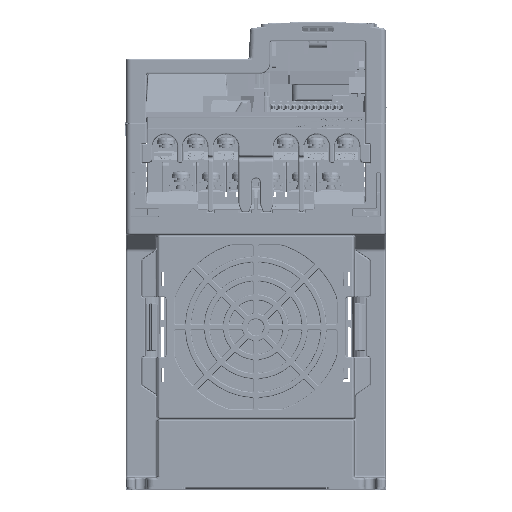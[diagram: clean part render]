
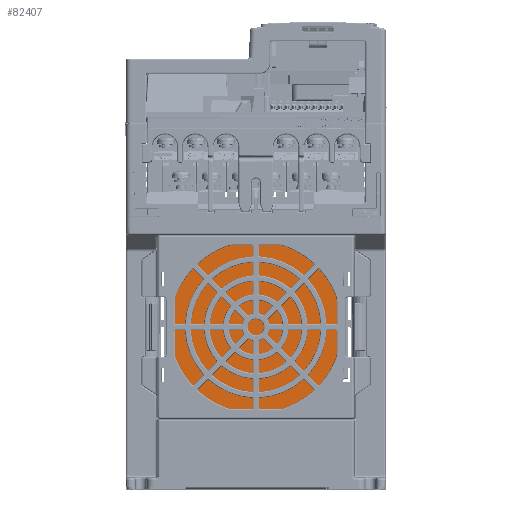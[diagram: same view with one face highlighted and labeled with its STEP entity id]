
A CAD part, top view. The second image highlights one B-rep face of the part: STEP entity #82407.
In plain terms, the highlighted planar face has unit normal (0, 0, 1).
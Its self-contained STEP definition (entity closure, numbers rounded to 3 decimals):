
#70794=DIRECTION('',(0.,1.,0.));
#70795=VECTOR('',#70794,13.387);
#70796=CARTESIAN_POINT('',(109.2,40.407,-11.9));
#70797=LINE('',#70796,#70795);
#70917=DIRECTION('',(0.,-1.,0.));
#70918=VECTOR('',#70917,13.387);
#70919=CARTESIAN_POINT('',(20.8,53.793,-11.9));
#70920=LINE('',#70919,#70918);
#70973=DIRECTION('',(-1.,0.,0.));
#70974=VECTOR('',#70973,13.387);
#70975=CARTESIAN_POINT('',(71.693,91.3,-11.9));
#70976=LINE('',#70975,#70974);
#71058=CARTESIAN_POINT('',(65.,47.1,-11.9));
#71059=DIRECTION('',(0.,0.,-1.));
#71060=DIRECTION('',(-0.15,-0.989,0.));
#71061=AXIS2_PLACEMENT_3D('',#71058,#71059,#71060);
#71066=CARTESIAN_POINT('',(65.,47.1,-11.9));
#71067=DIRECTION('',(0.,0.,-1.));
#71068=DIRECTION('',(-0.989,0.15,0.));
#71069=AXIS2_PLACEMENT_3D('',#71066,#71067,#71068);
#71074=CARTESIAN_POINT('',(65.,47.1,-11.9));
#71075=DIRECTION('',(0.,0.,-1.));
#71076=DIRECTION('',(0.15,0.989,0.));
#71077=AXIS2_PLACEMENT_3D('',#71074,#71075,#71076);
#71082=CARTESIAN_POINT('',(65.,47.1,-11.9));
#71083=DIRECTION('',(0.,0.,-1.));
#71084=DIRECTION('',(0.989,-0.15,0.));
#71085=AXIS2_PLACEMENT_3D('',#71082,#71083,#71084);
#71090=DIRECTION('',(-1.,0.,0.));
#71091=VECTOR('',#71090,13.387);
#71092=CARTESIAN_POINT('',(71.693,2.9,-11.9));
#71093=LINE('',#71092,#71091);
#78806=CARTESIAN_POINT('',(109.2,40.407,-11.9));
#78808=VERTEX_POINT('',#78806);
#78810=CARTESIAN_POINT('',(109.2,53.793,-11.9));
#78811=VERTEX_POINT('',#78810);
#78817=CARTESIAN_POINT('',(71.693,2.9,-11.9));
#78818=VERTEX_POINT('',#78817);
#78819=CARTESIAN_POINT('',(58.307,2.9,-11.9));
#78821=VERTEX_POINT('',#78819);
#78826=CARTESIAN_POINT('',(20.8,40.407,-11.9));
#78827=VERTEX_POINT('',#78826);
#78829=CARTESIAN_POINT('',(20.8,53.793,-11.9));
#78831=VERTEX_POINT('',#78829);
#78836=CARTESIAN_POINT('',(58.307,91.3,-11.9));
#78837=VERTEX_POINT('',#78836);
#78839=CARTESIAN_POINT('',(71.693,91.3,-11.9));
#78841=VERTEX_POINT('',#78839);
#82392=CARTESIAN_POINT('',(65.,47.1,-11.9));
#82393=DIRECTION('',(0.,0.,-1.));
#82394=DIRECTION('',(0.,-1.,0.));
#82395=AXIS2_PLACEMENT_3D('',#82392,#82393,#82394);
#82396=PLANE('',#82395);
#82397=ORIENTED_EDGE('',*,*,#82263,.T.);
#82398=ORIENTED_EDGE('',*,*,#82289,.F.);
#82399=ORIENTED_EDGE('',*,*,#82313,.T.);
#82400=ORIENTED_EDGE('',*,*,#82339,.F.);
#82401=ORIENTED_EDGE('',*,*,#82362,.T.);
#82402=ORIENTED_EDGE('',*,*,#82189,.F.);
#82403=ORIENTED_EDGE('',*,*,#82215,.T.);
#82404=ORIENTED_EDGE('',*,*,#82240,.T.);
#82405=EDGE_LOOP('',(#82397,#82398,#82399,#82400,#82401,#82402,#82403,#82404));
#82406=FACE_OUTER_BOUND('',#82405,.F.);
#71062=CIRCLE('',#71061,44.704);
#71070=CIRCLE('',#71069,44.704);
#71078=CIRCLE('',#71077,44.704);
#71086=CIRCLE('',#71085,44.704);
#82189=EDGE_CURVE('',#78808,#78811,#70797,.T.);
#82215=EDGE_CURVE('',#78808,#78818,#71086,.T.);
#82240=EDGE_CURVE('',#78818,#78821,#71093,.T.);
#82263=EDGE_CURVE('',#78821,#78827,#71062,.T.);
#82289=EDGE_CURVE('',#78831,#78827,#70920,.T.);
#82313=EDGE_CURVE('',#78831,#78837,#71070,.T.);
#82339=EDGE_CURVE('',#78841,#78837,#70976,.T.);
#82362=EDGE_CURVE('',#78841,#78811,#71078,.T.);
#82407=ADVANCED_FACE('',(#82406),#82396,.F.);
